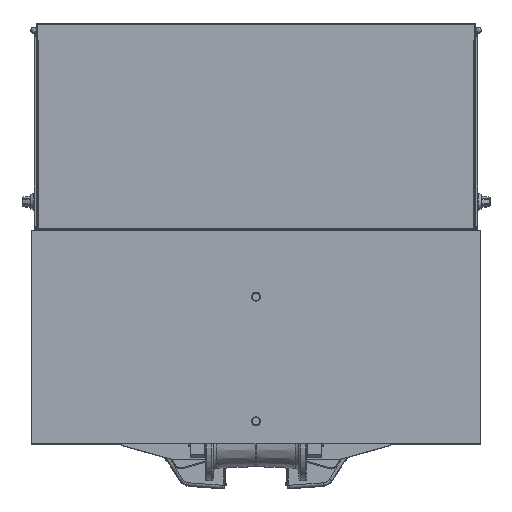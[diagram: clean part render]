
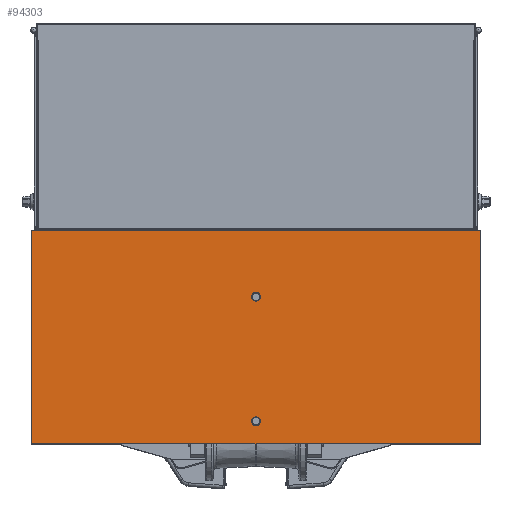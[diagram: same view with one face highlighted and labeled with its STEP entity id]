
A CAD part, top view. The second image highlights one B-rep face of the part: STEP entity #94303.
In plain terms, the highlighted planar face has unit normal (0, 0, 1).
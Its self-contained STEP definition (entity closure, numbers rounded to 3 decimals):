
#7578=LINE('',#154327,#15080);
#7579=LINE('',#154329,#15081);
#7580=LINE('',#154331,#15082);
#7581=LINE('',#154332,#15083);
#15080=VECTOR('',#116683,380.);
#15081=VECTOR('',#116684,800.);
#15082=VECTOR('',#116685,380.);
#15083=VECTOR('',#116686,800.);
#19206=FACE_BOUND('',#28551,.T.);
#19207=FACE_BOUND('',#28552,.T.);
#23008=FACE_OUTER_BOUND('',#28550,.T.);
#28550=EDGE_LOOP('',(#69762,#69763,#69764,#69765));
#28551=EDGE_LOOP('',(#69766));
#28552=EDGE_LOOP('',(#69767));
#33299=CIRCLE('',#100996,8.);
#33300=CIRCLE('',#100997,8.);
#39331=VERTEX_POINT('',#154325);
#39332=VERTEX_POINT('',#154326);
#39333=VERTEX_POINT('',#154328);
#39334=VERTEX_POINT('',#154330);
#39335=VERTEX_POINT('',#154333);
#39336=VERTEX_POINT('',#154335);
#50165=EDGE_CURVE('',#39331,#39332,#7578,.T.);
#50166=EDGE_CURVE('',#39333,#39331,#7579,.T.);
#50167=EDGE_CURVE('',#39334,#39333,#7580,.T.);
#50168=EDGE_CURVE('',#39332,#39334,#7581,.T.);
#50169=EDGE_CURVE('',#39335,#39335,#33299,.T.);
#50170=EDGE_CURVE('',#39336,#39336,#33300,.T.);
#69762=ORIENTED_EDGE('',*,*,#50165,.F.);
#69763=ORIENTED_EDGE('',*,*,#50166,.F.);
#69764=ORIENTED_EDGE('',*,*,#50167,.F.);
#69765=ORIENTED_EDGE('',*,*,#50168,.F.);
#69766=ORIENTED_EDGE('',*,*,#50169,.T.);
#69767=ORIENTED_EDGE('',*,*,#50170,.T.);
#85626=PLANE('',#100995);
#94303=ADVANCED_FACE('',(#23008,#19206,#19207),#85626,.T.);
#100995=AXIS2_PLACEMENT_3D('',#154324,#116681,#116682);
#100996=AXIS2_PLACEMENT_3D('',#154334,#116687,#116688);
#100997=AXIS2_PLACEMENT_3D('',#154336,#116689,#116690);
#116681=DIRECTION('center_axis',(0.,0.,
1.));
#116682=DIRECTION('ref_axis',(1.,0.,0.));
#116683=DIRECTION('',(0.,1.,0.));
#116684=DIRECTION('',(-1.,0.,0.));
#116685=DIRECTION('',(0.,-1.,0.));
#116686=DIRECTION('',(1.,0.,0.));
#116687=DIRECTION('center_axis',(0.,0.,
-1.));
#116688=DIRECTION('ref_axis',(1.,0.,0.));
#116689=DIRECTION('center_axis',(0.,0.,
-1.));
#116690=DIRECTION('ref_axis',(1.,0.,0.));
#154324=CARTESIAN_POINT('Origin',(0.,190.,925.));
#154325=CARTESIAN_POINT('',(-400.,0.,925.));
#154326=CARTESIAN_POINT('',(-400.,380.,925.));
#154327=CARTESIAN_POINT('',(-400.,380.,925.));
#154328=CARTESIAN_POINT('',(400.,0.,925.));
#154329=CARTESIAN_POINT('',(-400.,0.,925.));
#154330=CARTESIAN_POINT('',(400.,380.,925.));
#154331=CARTESIAN_POINT('',(400.,0.,925.));
#154332=CARTESIAN_POINT('',(400.,380.,925.));
#154333=CARTESIAN_POINT('',(-8.,40.,925.));
#154334=CARTESIAN_POINT('Origin',(0.,40.,
925.));
#154335=CARTESIAN_POINT('',(-8.,262.,925.));
#154336=CARTESIAN_POINT('Origin',(0.,262.,925.));
